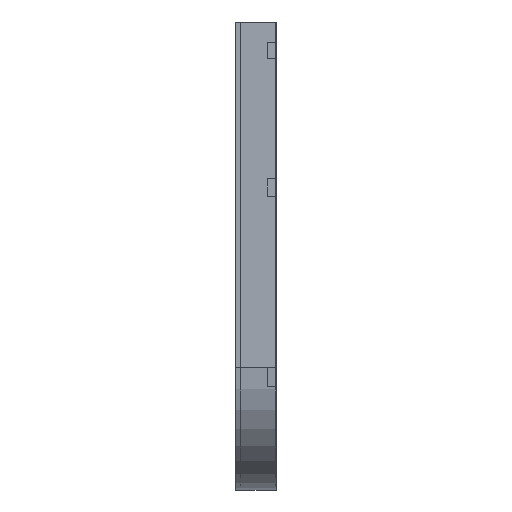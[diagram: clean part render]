
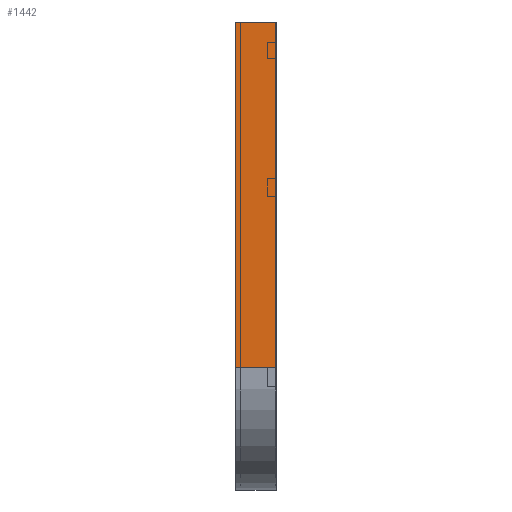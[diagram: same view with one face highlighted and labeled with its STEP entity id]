
A CAD part, left-side view. The second image highlights one B-rep face of the part: STEP entity #1442.
In plain terms, the highlighted planar face has unit normal (-1, 0, 0).
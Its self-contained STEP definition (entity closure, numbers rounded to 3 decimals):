
#25 = EDGE_CURVE ( 'NONE', #1546, #1127, #223, .T. ) ;
#121 = LINE ( 'NONE', #1736, #1712 ) ;
#223 = LINE ( 'NONE', #1665, #1519 ) ;
#326 = LINE ( 'NONE', #1425, #1726 ) ;
#356 = DIRECTION ( 'NONE',  ( 0., 0., -1. ) ) ;
#412 = DIRECTION ( 'NONE',  ( 0., -1., 0. ) ) ;
#428 = DIRECTION ( 'NONE',  ( 0., 0., -1. ) ) ;
#536 = EDGE_CURVE ( 'NONE', #1546, #750, #326, .T. ) ;
#577 = CARTESIAN_POINT ( 'NONE',  ( 0., 100., -850. ) ) ;
#591 = DIRECTION ( 'NONE',  ( 0., -1., 0. ) ) ;
#689 = ORIENTED_EDGE ( 'NONE', *, *, #1949, .F. ) ;
#750 = VERTEX_POINT ( 'NONE', #577 ) ;
#771 = DIRECTION ( 'NONE',  ( 1., 0., 0. ) ) ;
#812 = CARTESIAN_POINT ( 'NONE',  ( 0., 0., 0. ) ) ;
#876 = ORIENTED_EDGE ( 'NONE', *, *, #536, .T. ) ;
#1083 = ORIENTED_EDGE ( 'NONE', *, *, #25, .F. ) ;
#1127 = VERTEX_POINT ( 'NONE', #812 ) ;
#1156 = LINE ( 'NONE', #1790, #2058 ) ;
#1213 = AXIS2_PLACEMENT_3D ( 'NONE', #2063, #771, #428 ) ;
#1226 = EDGE_CURVE ( 'NONE', #750, #1229, #121, .T. ) ;
#1229 = VERTEX_POINT ( 'NONE', #1253 ) ;
#1253 = CARTESIAN_POINT ( 'NONE',  ( 0., 0., -850. ) ) ;
#1425 = CARTESIAN_POINT ( 'NONE',  ( 0., 100., 0. ) ) ;
#1442 = ADVANCED_FACE ( 'NONE', ( #2049 ), #1869, .F. ) ;
#1519 = VECTOR ( 'NONE', #412, 1000. ) ;
#1546 = VERTEX_POINT ( 'NONE', #1934 ) ;
#1665 = CARTESIAN_POINT ( 'NONE',  ( 0., 0., 0. ) ) ;
#1712 = VECTOR ( 'NONE', #591, 1000. ) ;
#1726 = VECTOR ( 'NONE', #1754, 1000. ) ;
#1736 = CARTESIAN_POINT ( 'NONE',  ( 0., 0., -850. ) ) ;
#1754 = DIRECTION ( 'NONE',  ( 0., 0., -1. ) ) ;
#1760 = ORIENTED_EDGE ( 'NONE', *, *, #1226, .T. ) ;
#1790 = CARTESIAN_POINT ( 'NONE',  ( 0., 0., 0. ) ) ;
#1869 = PLANE ( 'NONE',  #1213 ) ;
#1919 = EDGE_LOOP ( 'NONE', ( #689, #1083, #876, #1760 ) ) ;
#1934 = CARTESIAN_POINT ( 'NONE',  ( 0., 100., 0. ) ) ;
#1949 = EDGE_CURVE ( 'NONE', #1127, #1229, #1156, .T. ) ;
#2049 = FACE_OUTER_BOUND ( 'NONE', #1919, .T. ) ;
#2058 = VECTOR ( 'NONE', #356, 1000. ) ;
#2063 = CARTESIAN_POINT ( 'NONE',  ( 0., 0., 0. ) ) ;
